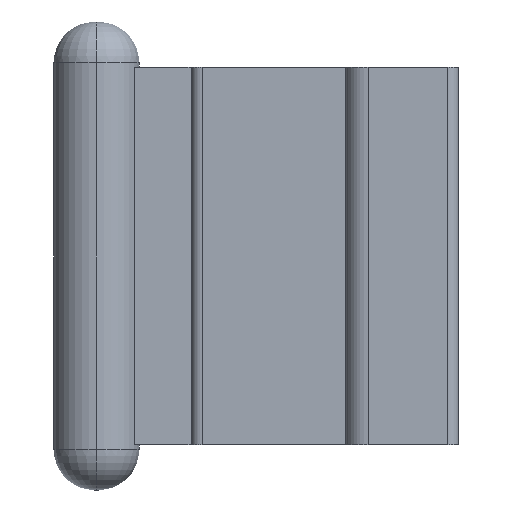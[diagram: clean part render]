
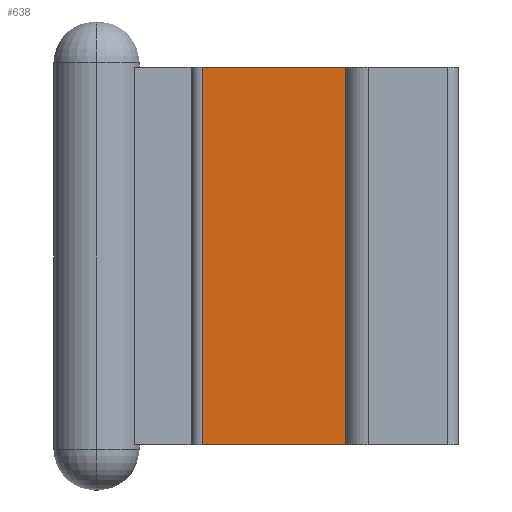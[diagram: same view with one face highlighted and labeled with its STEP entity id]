
A CAD part, left-side view. The second image highlights one B-rep face of the part: STEP entity #638.
In plain terms, the highlighted planar face has unit normal (-1, 0, 0).
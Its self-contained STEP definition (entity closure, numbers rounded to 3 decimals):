
#121 = EDGE_CURVE ( 'NONE', #2509, #1065, #1868, .T. ) ;
#166 = DIRECTION ( 'NONE',  ( 0., 1., 0. ) ) ;
#449 = CARTESIAN_POINT ( 'NONE',  ( -14.958, -0.23, -8.35 ) ) ;
#616 = CARTESIAN_POINT ( 'NONE',  ( -14.958, 0., -8.35 ) ) ;
#619 = EDGE_CURVE ( 'NONE', #1065, #1098, #1238, .T. ) ;
#638 = ADVANCED_FACE ( 'NONE', ( #2208 ), #1207, .F. ) ;
#676 = CARTESIAN_POINT ( 'NONE',  ( -14.958, 0., 8.35 ) ) ;
#758 = ORIENTED_EDGE ( 'NONE', *, *, #121, .T. ) ;
#819 = CARTESIAN_POINT ( 'NONE',  ( -14.958, -0.23, -10.35 ) ) ;
#948 = DIRECTION ( 'NONE',  ( 1., 0., 0. ) ) ;
#966 = ORIENTED_EDGE ( 'NONE', *, *, #619, .T. ) ;
#1065 = VERTEX_POINT ( 'NONE', #1972 ) ;
#1098 = VERTEX_POINT ( 'NONE', #3186 ) ;
#1206 = ORIENTED_EDGE ( 'NONE', *, *, #1314, .F. ) ;
#1207 = PLANE ( 'NONE',  #2573 ) ;
#1238 = LINE ( 'NONE', #1422, #1631 ) ;
#1307 = VECTOR ( 'NONE', #2367, 1000. ) ;
#1314 = EDGE_CURVE ( 'NONE', #2323, #1098, #2565, .T. ) ;
#1388 = EDGE_LOOP ( 'NONE', ( #758, #966, #1206, #2449 ) ) ;
#1422 = CARTESIAN_POINT ( 'NONE',  ( -14.958, 9.6, -8.35 ) ) ;
#1520 = CARTESIAN_POINT ( 'NONE',  ( -14.958, -0.23, 8.35 ) ) ;
#1631 = VECTOR ( 'NONE', #1702, 1000. ) ;
#1702 = DIRECTION ( 'NONE',  ( 0., 0., -1. ) ) ;
#1868 = LINE ( 'NONE', #676, #2750 ) ;
#1962 = DIRECTION ( 'NONE',  ( 0., 0., -1. ) ) ;
#1972 = CARTESIAN_POINT ( 'NONE',  ( -14.958, 9.6, 8.35 ) ) ;
#1977 = CARTESIAN_POINT ( 'NONE',  ( -14.958, -0.23, -10.35 ) ) ;
#2063 = LINE ( 'NONE', #819, #2676 ) ;
#2080 = EDGE_CURVE ( 'NONE', #2323, #2509, #2063, .T. ) ;
#2208 = FACE_OUTER_BOUND ( 'NONE', #1388, .T. ) ;
#2323 = VERTEX_POINT ( 'NONE', #449 ) ;
#2367 = DIRECTION ( 'NONE',  ( 0., 1., 0. ) ) ;
#2449 = ORIENTED_EDGE ( 'NONE', *, *, #2080, .T. ) ;
#2509 = VERTEX_POINT ( 'NONE', #1520 ) ;
#2553 = DIRECTION ( 'NONE',  ( 0., 0., 1. ) ) ;
#2565 = LINE ( 'NONE', #616, #1307 ) ;
#2573 = AXIS2_PLACEMENT_3D ( 'NONE', #1977, #948, #1962 ) ;
#2676 = VECTOR ( 'NONE', #2553, 1000. ) ;
#2750 = VECTOR ( 'NONE', #166, 1000. ) ;
#3186 = CARTESIAN_POINT ( 'NONE',  ( -14.958, 9.6, -8.35 ) ) ;
